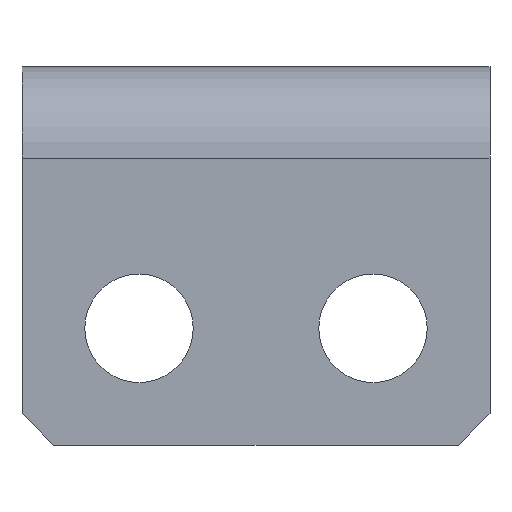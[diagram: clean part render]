
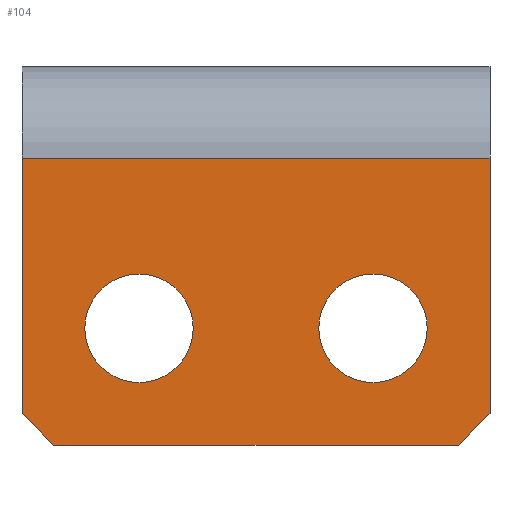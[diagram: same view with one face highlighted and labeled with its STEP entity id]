
A CAD part, front view. The second image highlights one B-rep face of the part: STEP entity #104.
In plain terms, the highlighted planar face has unit normal (0, -1, 0).
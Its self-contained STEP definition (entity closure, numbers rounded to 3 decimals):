
#1 = VERTEX_POINT ( 'NONE', #373 ) ;
#27 = VERTEX_POINT ( 'NONE', #307 ) ;
#29 = EDGE_CURVE ( 'NONE', #30, #27, #306, .T. ) ;
#30 = VERTEX_POINT ( 'NONE', #291 ) ;
#59 = EDGE_CURVE ( 'NONE', #60, #67, #248, .T. ) ;
#60 = VERTEX_POINT ( 'NONE', #244 ) ;
#66 = EDGE_CURVE ( 'NONE', #30, #67, #403, .T. ) ;
#67 = VERTEX_POINT ( 'NONE', #399 ) ;
#104 = ADVANCED_FACE ( 'NONE', ( #365, #364, #363 ), #362, .T. ) ;
#105 = EDGE_LOOP ( 'NONE', ( #106, #107 ) ) ;
#106 = ORIENTED_EDGE ( 'NONE', *, *, #198, .F. ) ;
#107 = ORIENTED_EDGE ( 'NONE', *, *, #108, .F. ) ;
#108 = EDGE_CURVE ( 'NONE', #200, #199, #357, .T. ) ;
#109 = EDGE_LOOP ( 'NONE', ( #123, #124 ) ) ;
#123 = ORIENTED_EDGE ( 'NONE', *, *, #329, .F. ) ;
#124 = ORIENTED_EDGE ( 'NONE', *, *, #125, .F. ) ;
#125 = EDGE_CURVE ( 'NONE', #177, #1, #677, .T. ) ;
#126 = EDGE_LOOP ( 'NONE', ( #127, #129, #130, #131, #132, #134 ) ) ;
#127 = ORIENTED_EDGE ( 'NONE', *, *, #128, .F. ) ;
#128 = EDGE_CURVE ( 'NONE', #60, #266, #672, .T. ) ;
#129 = ORIENTED_EDGE ( 'NONE', *, *, #59, .T. ) ;
#130 = ORIENTED_EDGE ( 'NONE', *, *, #66, .F. ) ;
#131 = ORIENTED_EDGE ( 'NONE', *, *, #29, .T. ) ;
#132 = ORIENTED_EDGE ( 'NONE', *, *, #133, .T. ) ;
#133 = EDGE_CURVE ( 'NONE', #27, #300, #668, .T. ) ;
#134 = ORIENTED_EDGE ( 'NONE', *, *, #374, .T. ) ;
#177 = VERTEX_POINT ( 'NONE', #600 ) ;
#198 = EDGE_CURVE ( 'NONE', #199, #200, #522, .T. ) ;
#199 = VERTEX_POINT ( 'NONE', #518 ) ;
#200 = VERTEX_POINT ( 'NONE', #517 ) ;
#244 = CARTESIAN_POINT ( 'NONE',  ( -11., -2., -12. ) ) ;
#245 = DIRECTION ( 'NONE',  ( 0.707, 0., -0.707 ) ) ;
#246 = VECTOR ( 'NONE', #245, 1000. ) ;
#247 = CARTESIAN_POINT ( 'NONE',  ( 0.75, -2., -23.75 ) ) ;
#248 = LINE ( 'NONE', #247, #246 ) ;
#266 = VERTEX_POINT ( 'NONE', #572 ) ;
#291 = CARTESIAN_POINT ( 'NONE',  ( 9.5, -2., -13.5 ) ) ;
#292 = DIRECTION ( 'NONE',  ( 0.707, 0., 0.707 ) ) ;
#293 = VECTOR ( 'NONE', #292, 1000. ) ;
#294 = CARTESIAN_POINT ( 'NONE',  ( 10.25, -2., -12.75 ) ) ;
#300 = VERTEX_POINT ( 'NONE', #629 ) ;
#306 = LINE ( 'NONE', #294, #293 ) ;
#307 = CARTESIAN_POINT ( 'NONE',  ( 11., -2., -12. ) ) ;
#329 = EDGE_CURVE ( 'NONE', #1, #177, #730, .T. ) ;
#357 = CIRCLE ( 'NONE', #547, 2.55 ) ;
#358 = DIRECTION ( 'NONE',  ( 0., 0., -1. ) ) ;
#359 = DIRECTION ( 'NONE',  ( 0., -1., 0. ) ) ;
#360 = CARTESIAN_POINT ( 'NONE',  ( 11., -2., -13.5 ) ) ;
#361 = AXIS2_PLACEMENT_3D ( 'NONE', #360, #359, #358 ) ;
#362 = PLANE ( 'NONE',  #361 ) ;
#363 = FACE_OUTER_BOUND ( 'NONE', #126, .T. ) ;
#364 = FACE_BOUND ( 'NONE', #109, .T. ) ;
#365 = FACE_BOUND ( 'NONE', #105, .T. ) ;
#373 = CARTESIAN_POINT ( 'NONE',  ( 5.5, -2., -5.45 ) ) ;
#374 = EDGE_CURVE ( 'NONE', #300, #266, #724, .T. ) ;
#399 = CARTESIAN_POINT ( 'NONE',  ( -9.5, -2., -13.5 ) ) ;
#400 = DIRECTION ( 'NONE',  ( -1., 0., 0. ) ) ;
#401 = VECTOR ( 'NONE', #400, 1000. ) ;
#402 = CARTESIAN_POINT ( 'NONE',  ( 11., -2., -13.5 ) ) ;
#403 = LINE ( 'NONE', #402, #401 ) ;
#517 = CARTESIAN_POINT ( 'NONE',  ( -5.5, -2., -10.55 ) ) ;
#518 = CARTESIAN_POINT ( 'NONE',  ( -5.5, -2., -5.45 ) ) ;
#519 = DIRECTION ( 'NONE',  ( 0., 0., -1. ) ) ;
#520 = DIRECTION ( 'NONE',  ( 0., -1., 0. ) ) ;
#521 = AXIS2_PLACEMENT_3D ( 'NONE', #527, #520, #519 ) ;
#522 = CIRCLE ( 'NONE', #521, 2.55 ) ;
#527 = CARTESIAN_POINT ( 'NONE',  ( -5.5, -2., -8. ) ) ;
#544 = DIRECTION ( 'NONE',  ( 0., 0., -1. ) ) ;
#545 = DIRECTION ( 'NONE',  ( 0., -1., 0. ) ) ;
#546 = CARTESIAN_POINT ( 'NONE',  ( -5.5, -2., -8. ) ) ;
#547 = AXIS2_PLACEMENT_3D ( 'NONE', #546, #545, #544 ) ;
#572 = CARTESIAN_POINT ( 'NONE',  ( -11., -2., 0. ) ) ;
#600 = CARTESIAN_POINT ( 'NONE',  ( 5.5, -2., -10.55 ) ) ;
#629 = CARTESIAN_POINT ( 'NONE',  ( 11., -2., 0. ) ) ;
#665 = DIRECTION ( 'NONE',  ( 0., 0., 1. ) ) ;
#666 = VECTOR ( 'NONE', #665, 1000. ) ;
#667 = CARTESIAN_POINT ( 'NONE',  ( 11., -2., -13.5 ) ) ;
#668 = LINE ( 'NONE', #667, #666 ) ;
#669 = DIRECTION ( 'NONE',  ( 0., 0., 1. ) ) ;
#670 = VECTOR ( 'NONE', #669, 1000. ) ;
#671 = CARTESIAN_POINT ( 'NONE',  ( -11., -2., -13.5 ) ) ;
#672 = LINE ( 'NONE', #671, #670 ) ;
#673 = DIRECTION ( 'NONE',  ( 0., 0., -1. ) ) ;
#674 = DIRECTION ( 'NONE',  ( 0., -1., 0. ) ) ;
#675 = CARTESIAN_POINT ( 'NONE',  ( 5.5, -2., -8. ) ) ;
#676 = AXIS2_PLACEMENT_3D ( 'NONE', #675, #674, #673 ) ;
#677 = CIRCLE ( 'NONE', #676, 2.55 ) ;
#721 = DIRECTION ( 'NONE',  ( -1., 0., 0. ) ) ;
#722 = VECTOR ( 'NONE', #721, 1000. ) ;
#723 = CARTESIAN_POINT ( 'NONE',  ( 11., -2., 0. ) ) ;
#724 = LINE ( 'NONE', #723, #722 ) ;
#726 = DIRECTION ( 'NONE',  ( 0., 0., -1. ) ) ;
#727 = DIRECTION ( 'NONE',  ( 0., -1., 0. ) ) ;
#728 = CARTESIAN_POINT ( 'NONE',  ( 5.5, -2., -8. ) ) ;
#729 = AXIS2_PLACEMENT_3D ( 'NONE', #728, #727, #726 ) ;
#730 = CIRCLE ( 'NONE', #729, 2.55 ) ;
